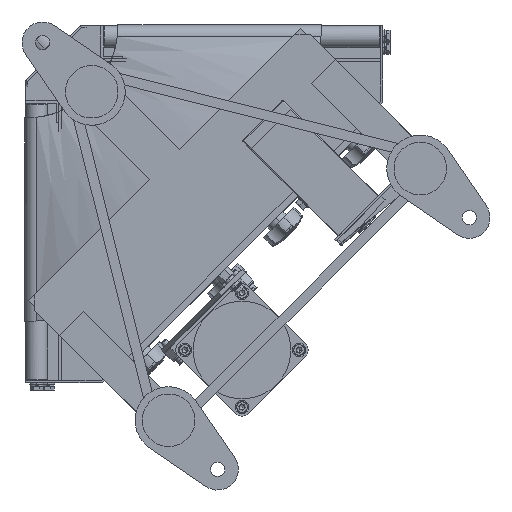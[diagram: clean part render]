
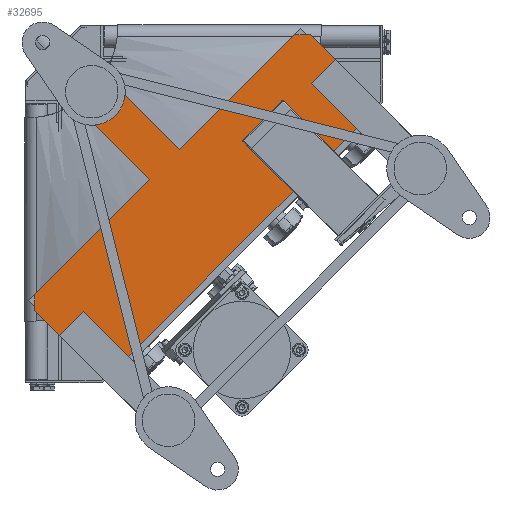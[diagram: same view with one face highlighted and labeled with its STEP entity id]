
A CAD part, front view. The second image highlights one B-rep face of the part: STEP entity #32695.
In plain terms, the highlighted planar face has unit normal (0, -1, 0).
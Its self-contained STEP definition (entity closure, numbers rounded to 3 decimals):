
#903 = DIRECTION ( 'NONE',  ( -0.707, 0., 0.707 ) ) ;
#1967 = CARTESIAN_POINT ( 'NONE',  ( 39.598, -167.5, -12.728 ) ) ;
#2521 = CARTESIAN_POINT ( 'NONE',  ( 8.132, -167.5, -245.012 ) ) ;
#3231 = EDGE_CURVE ( 'NONE', #16393, #29003, #36804, .T. ) ;
#3983 = VECTOR ( 'NONE', #49705, 1000. ) ;
#4111 = CARTESIAN_POINT ( 'NONE',  ( 113.137, -167.5, -140.007 ) ) ;
#5466 = EDGE_CURVE ( 'NONE', #11706, #24680, #46565, .T. ) ;
#5724 = CARTESIAN_POINT ( 'NONE',  ( 0., -167.5, 0. ) ) ;
#6169 = LINE ( 'NONE', #23300, #9224 ) ;
#6261 = DIRECTION ( 'NONE',  ( 0., 0., -1. ) ) ;
#6502 = ORIENTED_EDGE ( 'NONE', *, *, #41482, .F. ) ;
#9184 = ORIENTED_EDGE ( 'NONE', *, *, #45574, .F. ) ;
#9224 = VECTOR ( 'NONE', #38648, 1000. ) ;
#10190 = LINE ( 'NONE', #1967, #3983 ) ;
#10312 = CARTESIAN_POINT ( 'NONE',  ( 322.794, -167.5, -71.771 ) ) ;
#10391 = DIRECTION ( 'NONE',  ( 0., 0., -1. ) ) ;
#10957 = CARTESIAN_POINT ( 'NONE',  ( 12.728, -167.5, -39.598 ) ) ;
#11692 = CARTESIAN_POINT ( 'NONE',  ( 140.007, -167.5, -113.137 ) ) ;
#11706 = VERTEX_POINT ( 'NONE', #4111 ) ;
#13230 = EDGE_CURVE ( 'NONE', #18992, #16393, #22170, .T. ) ;
#13398 = VERTEX_POINT ( 'NONE', #11692 ) ;
#13407 = VECTOR ( 'NONE', #18219, 1000. ) ;
#13584 = LINE ( 'NONE', #46135, #17319 ) ;
#13821 = DIRECTION ( 'NONE',  ( 0.707, 0., -0.707 ) ) ;
#14349 = AXIS2_PLACEMENT_3D ( 'NONE', #5724, #34015, #10391 ) ;
#15297 = ORIENTED_EDGE ( 'NONE', *, *, #28007, .T. ) ;
#16393 = VERTEX_POINT ( 'NONE', #10312 ) ;
#17045 = ORIENTED_EDGE ( 'NONE', *, *, #37080, .T. ) ;
#17319 = VECTOR ( 'NONE', #34595, 1000. ) ;
#17414 = VERTEX_POINT ( 'NONE', #10957 ) ;
#18219 = DIRECTION ( 'NONE',  ( -1., 0., 0. ) ) ;
#18492 = CARTESIAN_POINT ( 'NONE',  ( 71.771, -167.5, -322.794 ) ) ;
#18992 = VERTEX_POINT ( 'NONE', #30400 ) ;
#20241 = FACE_OUTER_BOUND ( 'NONE', #47402, .T. ) ;
#20942 = CARTESIAN_POINT ( 'NONE',  ( 259.155, -167.5, -8.132 ) ) ;
#21015 = VECTOR ( 'NONE', #6261, 1000. ) ;
#21035 = CARTESIAN_POINT ( 'NONE',  ( 12.728, -167.5, -39.598 ) ) ;
#22170 = LINE ( 'NONE', #18492, #38869 ) ;
#22650 = ORIENTED_EDGE ( 'NONE', *, *, #25866, .F. ) ;
#23300 = CARTESIAN_POINT ( 'NONE',  ( 8.132, -167.5, -245.012 ) ) ;
#24680 = VERTEX_POINT ( 'NONE', #47528 ) ;
#25866 = EDGE_CURVE ( 'NONE', #11706, #17414, #47019, .T. ) ;
#26079 = DIRECTION ( 'NONE',  ( 0.707, 0., 0.707 ) ) ;
#26597 = ORIENTED_EDGE ( 'NONE', *, *, #5466, .T. ) ;
#28007 = EDGE_CURVE ( 'NONE', #28528, #13398, #6169, .T. ) ;
#28528 = VERTEX_POINT ( 'NONE', #49595 ) ;
#28626 = VECTOR ( 'NONE', #34090, 1000. ) ;
#28722 = VERTEX_POINT ( 'NONE', #43380 ) ;
#29003 = VERTEX_POINT ( 'NONE', #41111 ) ;
#29871 = CARTESIAN_POINT ( 'NONE',  ( 8.132, -167.5, -259.155 ) ) ;
#30036 = PLANE ( 'NONE',  #14349 ) ;
#30400 = CARTESIAN_POINT ( 'NONE',  ( 71.771, -167.5, -322.794 ) ) ;
#31915 = LINE ( 'NONE', #37908, #13407 ) ;
#32669 = EDGE_CURVE ( 'NONE', #24680, #28722, #36606, .T. ) ;
#32695 = ADVANCED_FACE ( 'NONE', ( #20241 ), #30036, .T. ) ;
#34015 = DIRECTION ( 'NONE',  ( 0., -1., 0. ) ) ;
#34090 = DIRECTION ( 'NONE',  ( -0.707, 0., -0.707 ) ) ;
#34255 = CARTESIAN_POINT ( 'NONE',  ( 39.598, -167.5, -12.728 ) ) ;
#34595 = DIRECTION ( 'NONE',  ( 0.707, 0., 0.707 ) ) ;
#34905 = ORIENTED_EDGE ( 'NONE', *, *, #46168, .T. ) ;
#36033 = VECTOR ( 'NONE', #13821, 1000. ) ;
#36204 = ORIENTED_EDGE ( 'NONE', *, *, #13230, .T. ) ;
#36538 = VECTOR ( 'NONE', #44640, 1000. ) ;
#36606 = LINE ( 'NONE', #29871, #21015 ) ;
#36804 = LINE ( 'NONE', #20942, #41109 ) ;
#37080 = EDGE_CURVE ( 'NONE', #29003, #28528, #31915, .T. ) ;
#37908 = CARTESIAN_POINT ( 'NONE',  ( 245.012, -167.5, -8.132 ) ) ;
#38648 = DIRECTION ( 'NONE',  ( -0.707, 0., -0.707 ) ) ;
#38869 = VECTOR ( 'NONE', #26079, 1000. ) ;
#39472 = ORIENTED_EDGE ( 'NONE', *, *, #3231, .T. ) ;
#41109 = VECTOR ( 'NONE', #903, 1000. ) ;
#41111 = CARTESIAN_POINT ( 'NONE',  ( 259.155, -167.5, -8.132 ) ) ;
#41482 = EDGE_CURVE ( 'NONE', #17414, #45381, #13584, .T. ) ;
#42187 = LINE ( 'NONE', #48801, #36033 ) ;
#43380 = CARTESIAN_POINT ( 'NONE',  ( 8.132, -167.5, -259.155 ) ) ;
#44566 = ORIENTED_EDGE ( 'NONE', *, *, #32669, .T. ) ;
#44640 = DIRECTION ( 'NONE',  ( -0.707, 0., 0.707 ) ) ;
#45381 = VERTEX_POINT ( 'NONE', #34255 ) ;
#45574 = EDGE_CURVE ( 'NONE', #45381, #13398, #10190, .T. ) ;
#46135 = CARTESIAN_POINT ( 'NONE',  ( 12.728, -167.5, -39.598 ) ) ;
#46168 = EDGE_CURVE ( 'NONE', #28722, #18992, #42187, .T. ) ;
#46565 = LINE ( 'NONE', #2521, #28626 ) ;
#47019 = LINE ( 'NONE', #21035, #36538 ) ;
#47402 = EDGE_LOOP ( 'NONE', ( #22650, #26597, #44566, #34905, #36204, #39472, #17045, #15297, #9184, #6502 ) ) ;
#47528 = CARTESIAN_POINT ( 'NONE',  ( 8.132, -167.5, -245.012 ) ) ;
#48801 = CARTESIAN_POINT ( 'NONE',  ( 8.132, -167.5, -259.155 ) ) ;
#49595 = CARTESIAN_POINT ( 'NONE',  ( 245.012, -167.5, -8.132 ) ) ;
#49705 = DIRECTION ( 'NONE',  ( 0.707, 0., -0.707 ) ) ;
